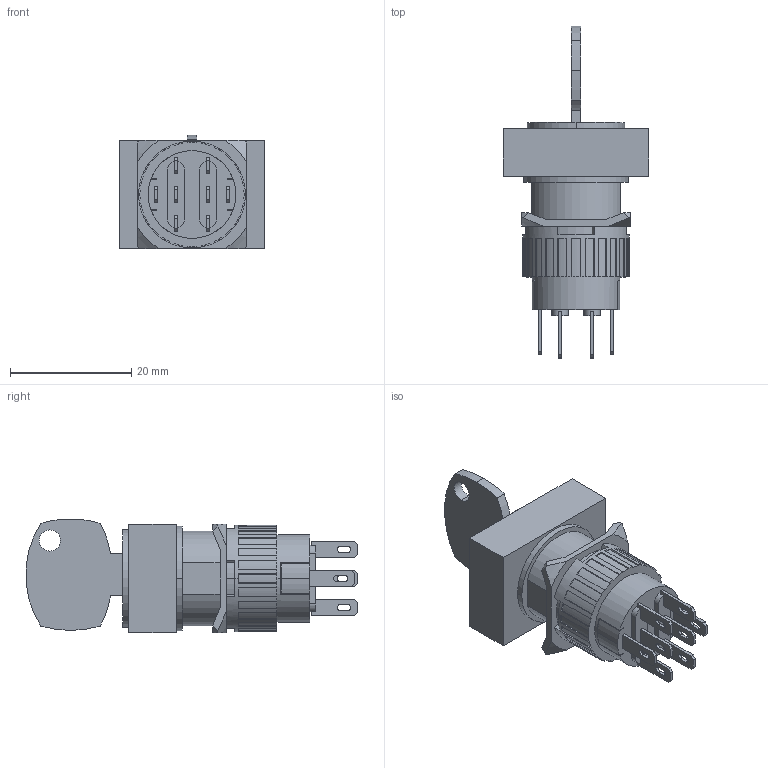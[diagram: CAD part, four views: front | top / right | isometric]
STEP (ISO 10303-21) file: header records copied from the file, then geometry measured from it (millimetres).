
FILE_DESCRIPTION (( 'STEP AP203' ), '1' );
FILE_NAME ('P16-K.STEP', '2018-02-15T15:25:24', ( '' ), ( '' ), 'SwSTEP 2.0', 'SolidWorks 2012', '' );
FILE_SCHEMA (( 'CONFIG_CONTROL_DESIGN' ));
Length unit declared in the file: millimetre
Products named in the file (1): P16-K
Bounding box: 24 x 54.85 x 18.82 mm (x, y, z)
Volume: 8610.9 mm3; surface area: 4676.5 mm2
Topology: 1 solids, 1 shells, 309 faces, 868 edges, 576 vertices
Faces by surface type: plane 212, cylinder 85, cone 12
Entity records: 10121 total; most frequent: CARTESIAN_POINT 1826, ORIENTED_EDGE 1736, DIRECTION 1710, EDGE_CURVE 868, VECTOR 598, LINE 598, VERTEX_POINT 576, AXIS2_PLACEMENT_3D 556
